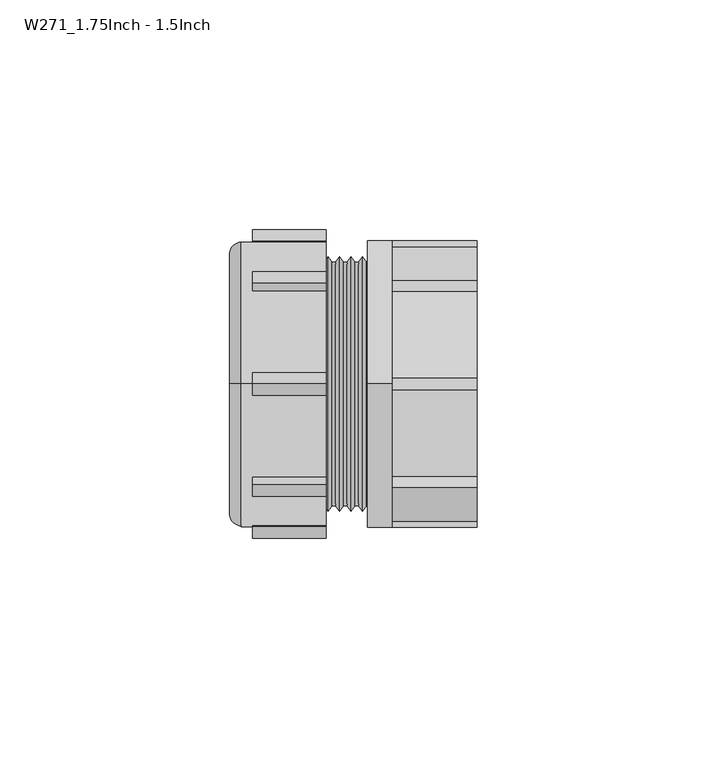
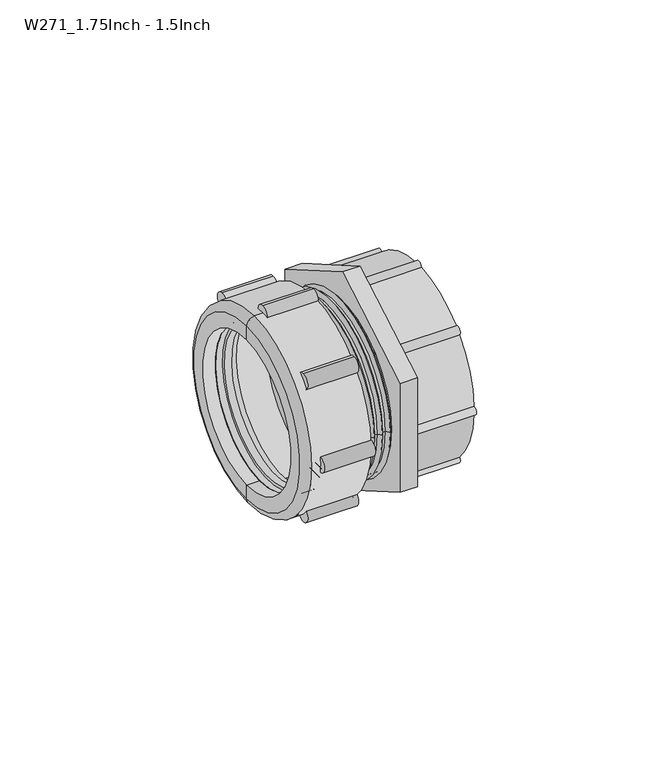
"""IFC4 building model written with IfcOpenShell, lengths in millimetres: pipe fitting geometry, Durapipe_PipeFitting_VulcatheneMechanical_1.75FItoPipeCoupler_W271 : W271_1.75Inch - 1.5Inch."""

from ifc_helpers import new_model, si_unit, point, frame, frame_2d, origin, place, context, project, spatial, polyline, circle_curve, ellipse_curve, trimmed, segment, composite_curve, outline, extrude, source, transform, mapped, element, save
from ifc_brep_helpers import plane_surface, cylinder_surface, revolved_surface, advanced_brep


def w271_1_75inch_1_5inch_8b04c7d0(model_context):
    return source(origin(), model_context, "Body", "SolidModel", [
        advanced_brep(
        [(-22.7, -18.5969083, -18.5969083), (-22.7, 18.5969083, 18.5969083), (-22.7, 17.1119841, 17.1119841), (-22.7, -17.1119841, -17.1119841), (-17.7, -18.3140656, -18.3140656), (-17.7, 18.3140656, 18.3140656), (-16.2, -18.1019336, -18.1019336), (-16.2, 18.1019336, 18.1019336), (-17.7, 18.1019336, 18.1019336), (-17.7, -18.1019336, -18.1019336), (-16.2, -17.1119841, -17.1119841), (-16.2, 17.1119841, 17.1119841), (-18.2, -17.1119841, -17.1119841), (-18.2, 17.1119841, 17.1119841), (-18.2, -16.5462987, -16.5462987), (-18.2, 16.5462987, 16.5462987), (-20.5, -17.1119841, -17.1119841), (-20.5, 17.1119841, 17.1119841), (-20.5, 16.5462987, 16.5462987), (-20.5, -16.5462987, -16.5462987)],
        [
            (0, 1, circle_curve(frame((-22.7, 0.0, 0.0), z_axis=(-1.0, 0.0, 0.0), x_axis=(0.0, 0.7071067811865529, 0.7071067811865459)), 26.3)),
            (1, 2),
            (2, 3, circle_curve(frame((-22.7, 0.0, 0.0), z_axis=(1.0, 0.0, 0.0), x_axis=(0.0, 0.7071067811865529, 0.7071067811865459)), 24.2)),
            (3, 0),
            (1, 0, circle_curve(frame((-22.7, 0.0, 0.0), z_axis=(-1.0, 0.0, 0.0), x_axis=(0.0, 0.7071067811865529, 0.7071067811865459)), 26.3)),
            (3, 2, circle_curve(frame((-22.7, 0.0, 0.0), z_axis=(1.0, 0.0, 0.0), x_axis=(0.0, 0.7071067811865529, 0.7071067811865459)), 24.2)),
            (4, 5, circle_curve(frame((-17.7, 0.0, 0.0), z_axis=(-1.0, 0.0, 0.0), x_axis=(0.0, 0.7071067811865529, 0.7071067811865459)), 25.9)),
            (5, 1),
            (0, 4),
            (5, 4, circle_curve(frame((-17.7, 0.0, 0.0), z_axis=(-1.0, 0.0, 0.0), x_axis=(0.0, 0.7071067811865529, 0.7071067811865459)), 25.9)),
            (6, 7, circle_curve(frame((-16.2, 0.0, 0.0), z_axis=(-1.0, 0.0, 0.0), x_axis=(0.0, 0.7071067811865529, 0.7071067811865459)), 25.6)),
            (7, 8),
            (8, 9, circle_curve(frame((-17.7, 0.0, 0.0), z_axis=(1.0, 0.0, 0.0), x_axis=(0.0, 0.7071067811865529, 0.7071067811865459)), 25.6)),
            (9, 6),
            (7, 6, circle_curve(frame((-16.2, 0.0, 0.0), z_axis=(-1.0, 0.0, 0.0), x_axis=(0.0, 0.7071067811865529, 0.7071067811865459)), 25.6)),
            (9, 8, circle_curve(frame((-17.7, 0.0, 0.0), z_axis=(1.0, 0.0, 0.0), x_axis=(0.0, 0.7071067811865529, 0.7071067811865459)), 25.6)),
            (6, 10),
            (10, 11, circle_curve(frame((-16.2, 0.0, 0.0), z_axis=(-1.0, 0.0, 0.0), x_axis=(0.0, 0.7071067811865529, 0.7071067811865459)), 24.2)),
            (11, 7),
            (11, 10, circle_curve(frame((-16.2, 0.0, 0.0), z_axis=(-1.0, 0.0, 0.0), x_axis=(0.0, 0.7071067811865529, 0.7071067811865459)), 24.2)),
            (10, 12),
            (12, 13, circle_curve(frame((-18.2, 0.0, 0.0), z_axis=(-1.0, 0.0, 0.0), x_axis=(0.0, 0.7071067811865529, 0.7071067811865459)), 24.2)),
            (13, 11),
            (13, 12, circle_curve(frame((-18.2, 0.0, 0.0), z_axis=(-1.0, 0.0, 0.0), x_axis=(0.0, 0.7071067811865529, 0.7071067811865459)), 24.2)),
            (12, 14),
            (14, 15, circle_curve(frame((-18.2, 0.0, 0.0), z_axis=(-1.0, 0.0, 0.0), x_axis=(0.0, 0.7071067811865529, 0.7071067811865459)), 23.4)),
            (15, 13),
            (15, 14, circle_curve(frame((-18.2, 0.0, 0.0), z_axis=(-1.0, 0.0, 0.0), x_axis=(0.0, 0.7071067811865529, 0.7071067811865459)), 23.4)),
            (16, 17, circle_curve(frame((-20.5, 0.0, 0.0), z_axis=(-1.0, 0.0, 0.0), x_axis=(0.0, 0.7071067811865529, 0.7071067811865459)), 24.2)),
            (17, 18),
            (18, 19, circle_curve(frame((-20.5, 0.0, 0.0), z_axis=(1.0, 0.0, 0.0), x_axis=(0.0, 0.7071067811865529, 0.7071067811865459)), 23.4)),
            (19, 16),
            (17, 16, circle_curve(frame((-20.5, 0.0, 0.0), z_axis=(-1.0, 0.0, 0.0), x_axis=(0.0, 0.7071067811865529, 0.7071067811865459)), 24.2)),
            (19, 18, circle_curve(frame((-20.5, 0.0, 0.0), z_axis=(1.0, 0.0, 0.0), x_axis=(0.0, 0.7071067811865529, 0.7071067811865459)), 23.4)),
            (2, 17),
            (16, 3),
            (14, 19),
            (18, 15),
            (4, 9),
            (8, 5),
        ],
        [
            plane_surface(frame((-22.7, 0.0, 0.0), z_axis=(-1.0, 0.0, 0.0), x_axis=(0.0, 0.707106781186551, 0.707106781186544))),
            revolved_surface(polyline([(-22.7, 18.5969083, 18.5969083), (-17.7, 18.3140656, 18.3140656)]), (-27.7, 0.0, 0.0), (1.0000000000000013, 0.0, 0.0)),
            cylinder_surface(frame((-14.1293443, 0.0, 0.0), z_axis=(1.0000000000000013, 0.0, 0.0), x_axis=(0.0, 0.7071067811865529, 0.7071067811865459)), 25.6),
            plane_surface(frame((-16.2, 0.0, 0.0), z_axis=(1.0, 0.0, 0.0), x_axis=(0.0, 0.707106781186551, 0.707106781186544))),
            revolved_surface(polyline([(-16.20000000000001, 17.11198410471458, 17.11198410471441), (-18.200000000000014, 17.11198410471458, 17.11198410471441)]), (-12.707009, 0.0, 0.0), (1.0000000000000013, 0.0, 0.0)),
            plane_surface(frame((-18.2, 0.0, 0.0), z_axis=(1.0, 0.0, 0.0), x_axis=(0.0, 0.707106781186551, 0.707106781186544))),
            plane_surface(frame((-20.5, 0.0, 0.0), z_axis=(-1.0, 0.0, 0.0), x_axis=(0.0, 0.707106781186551, 0.707106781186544))),
            revolved_surface(polyline([(-20.49999999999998, 17.11198410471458, 17.11198410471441), (-22.699999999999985, 17.11198410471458, 17.11198410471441)]), (-27.7, 0.0, 0.0), (1.0000000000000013, 0.0, 0.0)),
            revolved_surface(polyline([(-18.19999999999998, 16.546298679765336, 16.546298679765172), (-20.49999999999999, 16.546298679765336, 16.546298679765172)]), (-24.2661924, 0.0, 0.0), (1.0000000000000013, 0.0, 0.0)),
            plane_surface(frame((-17.7, 0.0, 0.0), z_axis=(1.0, 0.0, 0.0), x_axis=(0.0, 0.707106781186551, 0.707106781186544))),
        ],
        [
            (0, [[1, 2, 3, 4]]),
            (0, [[-2, 5, -4, 6]]),
            (1, [[7, 8, -1, 9]]),
            (1, [[10, -9, -5, -8]]),
            (2, [[11, 12, 13, 14]]),
            (2, [[-12, 15, -14, 16]]),
            (3, [[-11, 17, 18, 19]]),
            (3, [[-15, -19, 20, -17]]),
            (4, [[21, 22, 23, -18]]),
            (4, [[-21, -20, -23, 24]]),
            (5, [[-22, 25, 26, 27]]),
            (5, [[-24, -27, 28, -25]]),
            (6, [[29, 30, 31, 32]]),
            (6, [[33, -32, 34, -30]]),
            (7, [[-3, 35, -29, 36]]),
            (7, [[-6, -36, -33, -35]]),
            (8, [[37, -31, 38, -26]]),
            (8, [[-37, -28, -38, -34]]),
            (9, [[-7, 39, -13, 40]]),
            (9, [[-10, -40, -16, -39]]),
        ],
    ),
        advanced_brep(
        [(-6.0, 0.0, -31.0), (-6.0, 0.0, 31.0), (-24.4, 0.0, 31.0), (-24.4, 0.0, -31.0), (-6.0, 0.0, -26.0), (-6.0, 0.0, 26.0), (-26.9, 0.0, -28.5), (-26.9, 0.0, 28.5), (-26.9, 0.0, 24.0), (-26.9, 0.0, -24.0), (-22.7, 0.0, -26.0), (-22.7, 0.0, 26.0), (-22.7, 0.0, -24.0), (-22.7, 0.0, 24.0)],
        [
            (0, 1, circle_curve(frame((-6.0, 0.0, 0.0), z_axis=(-1.0, 0.0, 0.0), x_axis=(0.0, 0.0, 1.0000000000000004)), 31.0)),
            (1, 2),
            (2, 3, circle_curve(frame((-24.4, 0.0, 0.0), z_axis=(1.0, 0.0, 0.0), x_axis=(0.0, 0.0, 1.0000000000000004)), 31.0)),
            (3, 0),
            (1, 0, circle_curve(frame((-6.0, 0.0, 0.0), z_axis=(-1.0, 0.0, 0.0), x_axis=(0.0, 0.0, 1.0000000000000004)), 31.0)),
            (3, 2, circle_curve(frame((-24.4, 0.0, 0.0), z_axis=(1.0, 0.0, 0.0), x_axis=(0.0, 0.0, 1.0000000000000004)), 31.0)),
            (4, 5, circle_curve(frame((-6.0, 0.0, 0.0), z_axis=(-1.0, 0.0, 0.0), x_axis=(0.0, 0.0, 1.0000000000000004)), 26.0)),
            (5, 1),
            (0, 4),
            (5, 4, circle_curve(frame((-6.0, 0.0, 0.0), z_axis=(-1.0, 0.0, 0.0), x_axis=(0.0, 0.0, 1.0000000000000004)), 26.0)),
            (6, 7, circle_curve(frame((-26.9, 0.0, 0.0), z_axis=(-1.0, 0.0, 0.0), x_axis=(0.0, 0.0, 1.0000000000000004)), 28.5)),
            (7, 8),
            (8, 9, circle_curve(frame((-26.9, 0.0, 0.0), z_axis=(1.0, 0.0, 0.0), x_axis=(0.0, 0.0, 1.0000000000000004)), 24.0)),
            (9, 6),
            (7, 6, circle_curve(frame((-26.9, 0.0, 0.0), z_axis=(-1.0, 0.0, 0.0), x_axis=(0.0, 0.0, 1.0000000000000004)), 28.5)),
            (9, 8, circle_curve(frame((-26.9, 0.0, 0.0), z_axis=(1.0, 0.0, 0.0), x_axis=(0.0, 0.0, 1.0000000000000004)), 24.0)),
            (2, 7, circle_curve(frame((-24.4, 0.0, 28.5), z_axis=(0.0, -1.0000000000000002, 0.0), x_axis=(-1.0000000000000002, 0.0, 0.0)), 2.5)),
            (6, 3, circle_curve(frame((-24.4, 0.0, -28.5), z_axis=(0.0, -1.0000000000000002, 0.0), x_axis=(-1.0000000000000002, 0.0, 0.0)), 2.5)),
            (10, 11, circle_curve(frame((-22.7, 0.0, 0.0), z_axis=(-1.0, 0.0, 0.0), x_axis=(0.0, 0.0, 1.0000000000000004)), 26.0)),
            (11, 5),
            (4, 10),
            (11, 10, circle_curve(frame((-22.7, 0.0, 0.0), z_axis=(-1.0, 0.0, 0.0), x_axis=(0.0, 0.0, 1.0000000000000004)), 26.0)),
            (12, 13, circle_curve(frame((-22.7, 0.0, 0.0), z_axis=(-1.0, 0.0, 0.0), x_axis=(0.0, 0.0, 1.0000000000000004)), 24.0)),
            (13, 11),
            (10, 12),
            (13, 12, circle_curve(frame((-22.7, 0.0, 0.0), z_axis=(-1.0, 0.0, 0.0), x_axis=(0.0, 0.0, 1.0000000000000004)), 24.0)),
            (8, 13),
            (12, 9),
        ],
        [
            cylinder_surface(frame((-1587.7018184, 0.0, 0.0), z_axis=(1.0000000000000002, 0.0, 0.0), x_axis=(0.0, 0.0, 1.0000000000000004)), 31.0),
            plane_surface(frame((-6.0, 0.0, 0.0), z_axis=(1.0, 0.0, 0.0), x_axis=(0.0, 0.0, 1.0))),
            plane_surface(frame((-26.9, 0.0, 0.0), z_axis=(-1.0, 0.0, 0.0), x_axis=(0.0, 0.0, 1.0))),
            revolved_surface(trimmed(ellipse_curve(frame((-24.4, 0.0, 28.5), z_axis=(0.0, 1.0000000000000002, 0.0), x_axis=(-1.0000000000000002, 0.0, 0.0)), 2.5, 2.5), [point((-26.9, 0.0, 28.5))], [point((-24.4, 0.0, 31.0))], True, "CARTESIAN"), (-1587.7018184, 0.0, 0.0), (1.0000000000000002, 0.0, 0.0)),
            revolved_surface(polyline([(-5.9999999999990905, 0.0, 26.00000000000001), (-22.699999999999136, 0.0, 26.00000000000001)]), (-1587.7018184, 0.0, 0.0), (1.0000000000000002, 0.0, 0.0)),
            plane_surface(frame((-22.7, 0.0, 0.0), z_axis=(1.0, 0.0, 0.0), x_axis=(0.0, 0.0, 1.0))),
            revolved_surface(polyline([(-22.699999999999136, 0.0, 24.00000000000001), (-26.89999999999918, 0.0, 24.00000000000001)]), (-1587.7018184, 0.0, 0.0), (1.0000000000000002, 0.0, 0.0)),
        ],
        [
            (0, [[1, 2, 3, 4]]),
            (0, [[5, -4, 6, -2]]),
            (1, [[7, 8, -1, 9]]),
            (1, [[10, -9, -5, -8]]),
            (2, [[11, 12, 13, 14]]),
            (2, [[15, -14, 16, -12]]),
            (3, [[-3, 17, -11, 18]]),
            (3, [[-6, -18, -15, -17]]),
            (4, [[19, 20, -7, 21]]),
            (4, [[22, -21, -10, -20]]),
            (5, [[23, 24, -19, 25]]),
            (5, [[26, -25, -22, -24]]),
            (6, [[-13, 27, -23, 28]]),
            (6, [[-16, -28, -26, -27]]),
        ],
    ),
        extrude(outline(composite_curve([segment(trimmed(circle_curve(frame_2d((31.0, 0.0)), 2.5), [point((31.0, -2.5))], [point((31.0, 2.5))], False, "CARTESIAN"), True, "CONTINUOUS"), segment(trimmed(circle_curve(frame_2d((31.0, 0.0)), 2.5), [point((31.0, 2.5))], [point((31.0, -2.5))], False, "CARTESIAN"), True, "CONTINUOUS")], self_intersect=False)), frame((-21.9, 0.0, 0.0), z_axis=(1.0, 0.0, 0.0), x_axis=(0.0, 1.0, 0.0)), (0.0, 0.0, 1.0), 15.9),
        extrude(outline(composite_curve([segment(trimmed(circle_curve(frame_2d((21.9203102, 21.9203102)), 2.5), [point((21.9203102, 19.4203102))], [point((21.9203102, 24.4203102))], False, "CARTESIAN"), True, "CONTINUOUS"), segment(trimmed(circle_curve(frame_2d((21.9203102, 21.9203102)), 2.5), [point((21.9203102, 24.4203102))], [point((21.9203102, 19.4203102))], False, "CARTESIAN"), True, "CONTINUOUS")], self_intersect=False)), frame((-21.9, 0.0, 0.0), z_axis=(1.0, 0.0, 0.0), x_axis=(0.0, 1.0, 0.0)), (0.0, 0.0, 1.0), 15.9),
        extrude(outline(composite_curve([segment(trimmed(circle_curve(frame_2d((0.0, 31.0)), 2.5), [point((0.0, 28.5))], [point((0.0, 33.5))], False, "CARTESIAN"), True, "CONTINUOUS"), segment(trimmed(circle_curve(frame_2d((0.0, 31.0)), 2.5), [point((0.0, 33.5))], [point((0.0, 28.5))], False, "CARTESIAN"), True, "CONTINUOUS")], self_intersect=False)), frame((-21.9, 0.0, 0.0), z_axis=(1.0, 0.0, 0.0), x_axis=(0.0, 1.0, 0.0)), (0.0, 0.0, 1.0), 15.9),
        extrude(outline(composite_curve([segment(trimmed(circle_curve(frame_2d((-21.9203102, 21.9203102)), 2.5), [point((-21.9203102, 19.4203102))], [point((-21.9203102, 24.4203102))], False, "CARTESIAN"), True, "CONTINUOUS"), segment(trimmed(circle_curve(frame_2d((-21.9203102, 21.9203102)), 2.5), [point((-21.9203102, 24.4203102))], [point((-21.9203102, 19.4203102))], False, "CARTESIAN"), True, "CONTINUOUS")], self_intersect=False)), frame((-21.9, 0.0, 0.0), z_axis=(1.0, 0.0, 0.0), x_axis=(0.0, 1.0, 0.0)), (0.0, 0.0, 1.0), 15.9),
        extrude(outline(composite_curve([segment(trimmed(circle_curve(frame_2d((-31.0, 0.0)), 2.5), [point((-31.0, -2.5))], [point((-31.0, 2.5))], False, "CARTESIAN"), True, "CONTINUOUS"), segment(trimmed(circle_curve(frame_2d((-31.0, 0.0)), 2.5), [point((-31.0, 2.5))], [point((-31.0, -2.5))], False, "CARTESIAN"), True, "CONTINUOUS")], self_intersect=False)), frame((-21.9, 0.0, 0.0), z_axis=(1.0, 0.0, 0.0), x_axis=(0.0, 1.0, 0.0)), (0.0, 0.0, 1.0), 15.9),
        extrude(outline(composite_curve([segment(trimmed(circle_curve(frame_2d((-21.9203102, -21.9203102)), 2.5), [point((-21.9203102, -24.4203102))], [point((-21.9203102, -19.4203102))], False, "CARTESIAN"), True, "CONTINUOUS"), segment(trimmed(circle_curve(frame_2d((-21.9203102, -21.9203102)), 2.5), [point((-21.9203102, -19.4203102))], [point((-21.9203102, -24.4203102))], False, "CARTESIAN"), True, "CONTINUOUS")], self_intersect=False)), frame((-21.9, 0.0, 0.0), z_axis=(1.0, 0.0, 0.0), x_axis=(0.0, 1.0, 0.0)), (0.0, 0.0, 1.0), 15.9),
        extrude(outline(composite_curve([segment(trimmed(circle_curve(frame_2d((0.0, -31.0)), 2.5), [point((0.0, -33.5))], [point((0.0, -28.5))], False, "CARTESIAN"), True, "CONTINUOUS"), segment(trimmed(circle_curve(frame_2d((0.0, -31.0)), 2.5), [point((0.0, -28.5))], [point((0.0, -33.5))], False, "CARTESIAN"), True, "CONTINUOUS")], self_intersect=False)), frame((-21.9, 0.0, 0.0), z_axis=(1.0, 0.0, 0.0), x_axis=(0.0, 1.0, 0.0)), (0.0, 0.0, 1.0), 15.9),
        extrude(outline(composite_curve([segment(trimmed(circle_curve(frame_2d((21.9203102, -21.9203102)), 2.5), [point((21.9203102, -24.4203102))], [point((21.9203102, -19.4203102))], False, "CARTESIAN"), True, "CONTINUOUS"), segment(trimmed(circle_curve(frame_2d((21.9203102, -21.9203102)), 2.5), [point((21.9203102, -19.4203102))], [point((21.9203102, -24.4203102))], False, "CARTESIAN"), True, "CONTINUOUS")], self_intersect=False)), frame((-21.9, 0.0, 0.0), z_axis=(1.0, 0.0, 0.0), x_axis=(0.0, 1.0, 0.0)), (0.0, 0.0, 1.0), 15.9),
        advanced_brep(
        [(3.05, 31.15, 17.9844609), (3.05, 31.15, -17.9844609), (3.05, 0.0, -35.9689218), (3.05, -31.15, -17.9844609), (3.05, -31.15, 17.9844609), (3.05, 0.0, 35.9689218), (3.05, -26.5, 0.0), (3.05, 26.5, 0.0), (8.45, 31.15, 17.9844609), (8.45, 0.0, 35.9689218), (8.45, -31.15, 17.9844609), (8.45, -31.15, 0.0), (8.45, -29.8216918, 1.2996918), (8.45, -22.0061413, 20.1680996), (8.45, -20.1680996, 22.0061413), (8.45, -1.2996918, 29.8216918), (8.45, 1.2996917, 29.8216918), (8.45, 20.1680996, 22.0061413), (8.45, 22.0061413, 20.1680996), (8.45, 29.8216918, 1.2996918), (8.45, 31.15, 0.0), (8.45, -31.15, -17.9844609), (8.45, 0.0, -35.9689218), (8.45, 31.15, -17.9844609), (8.45, 29.8216918, -1.2996918), (8.45, 22.0061413, -20.1680996), (8.45, 20.1680996, -22.0061413), (8.45, 1.2996917, -29.8216918), (8.45, -1.2996918, -29.8216918), (8.45, -20.1680996, -22.0061413), (8.45, -22.0061413, -20.1680996), (8.45, -29.8216918, -1.2996918), (8.45, 26.9, 0.0), (8.45, -26.9, 0.0), (8.45, -21.75, 0.0), (8.45, 21.75, 0.0), (6.1, 21.75, 0.0), (3.05, 21.75, 0.0), (3.05, -21.75, 0.0), (6.1, -21.75, 0.0), (26.9, -20.1680996, 22.0061413), (26.9, -22.0061413, 20.1680996), (26.9, -29.8216918, 1.2996918), (26.9, -29.8216918, -1.2996918), (26.9, -22.0061413, -20.1680996), (26.9, -20.1680996, -22.0061413), (26.9, -1.2996918, -29.8216918), (26.9, 1.2996917, -29.8216918), (26.9, 20.1680996, -22.0061413), (26.9, 22.0061413, -20.1680996), (26.9, 29.8216918, -1.2996918), (26.9, 29.8216918, 1.2996918), (26.9, 22.0061413, 20.1680996), (26.9, 20.1680996, 22.0061413), (26.9, 1.2996917, 29.8216918), (26.9, -1.2996918, 29.8216918), (26.9, -26.9, 0.0), (26.9, 26.9, 0.0), (-6.0, -21.75, 0.0), (-6.0, 21.75, 0.0), (-6.0, 26.9941176, 0.0), (-6.0, -26.9941176, 0.0), (2.85, -26.5, 0.0), (2.85, 26.5, 0.0), (2.0, -27.7, 0.0), (2.0, 27.7, 0.0), (1.15, -26.5, 0.0), (1.15, 26.5, 0.0), (0.35, -26.5, 0.0), (0.35, 26.5, 0.0), (-0.5, -27.7, 0.0), (-0.5, 27.7, 0.0), (-1.35, -26.5, 0.0), (-1.35, 26.5, 0.0), (-2.15, -26.5, 0.0), (-2.15, 26.5, 0.0), (-3.0, -27.7, 0.0), (-3.0, 27.7, 0.0), (-3.85, -26.5, 0.0), (-3.85, 26.5, 0.0), (-4.65, -26.5, 0.0), (-4.65, 26.5, 0.0), (-5.5, -27.7, 0.0), (-5.5, 27.7, 0.0)],
        [
            (0, 1),
            (1, 2),
            (2, 3),
            (3, 4),
            (4, 5),
            (5, 0),
            (6, 7, circle_curve(frame((3.05, 0.0, 0.0), z_axis=(1.0, 0.0, 0.0), x_axis=(0.0, 1.0, 0.0)), 26.5)),
            (7, 6, circle_curve(frame((3.05, 0.0, 0.0), z_axis=(1.0, 0.0, 0.0), x_axis=(0.0, 1.0, 0.0)), 26.5)),
            (8, 9),
            (9, 10),
            (10, 11),
            (11, 12, circle_curve(frame((8.45, -29.85, 0.0), z_axis=(-1.0, 0.0, 0.0), x_axis=(0.0, 1.0, 0.0)), 1.3)),
            (12, 13, circle_curve(frame((8.45, 0.0, 0.0), z_axis=(-1.0, 0.0, 0.0), x_axis=(0.0, 1.0, 0.0)), 29.85)),
            (13, 14, circle_curve(frame((8.45, -21.1071374, 21.1071374), z_axis=(-1.0, 0.0, 0.0), x_axis=(0.0, 1.0, 0.0)), 1.3)),
            (14, 15, circle_curve(frame((8.45, 0.0, 0.0), z_axis=(-1.0, 0.0, 0.0), x_axis=(0.0, 1.0, 0.0)), 29.85)),
            (15, 16, circle_curve(frame((8.45, 0.0, 29.85), z_axis=(-1.0, 0.0, 0.0), x_axis=(0.0, 1.0, 0.0)), 1.3)),
            (16, 17, circle_curve(frame((8.45, 0.0, 0.0), z_axis=(-1.0, 0.0, 0.0), x_axis=(0.0, 1.0, 0.0)), 29.85)),
            (17, 18, circle_curve(frame((8.45, 21.1071374, 21.1071374), z_axis=(-1.0, 0.0, 0.0), x_axis=(0.0, 1.0, 0.0)), 1.3)),
            (18, 19, circle_curve(frame((8.45, 0.0, 0.0), z_axis=(-1.0, 0.0, 0.0), x_axis=(0.0, 1.0, 0.0)), 29.85)),
            (19, 20, circle_curve(frame((8.45, 29.85, 0.0), z_axis=(-1.0, 0.0, 0.0), x_axis=(0.0, 1.0, 0.0)), 1.3)),
            (20, 8),
            (21, 22),
            (22, 23),
            (23, 20),
            (20, 24, circle_curve(frame((8.45, 29.85, 0.0), z_axis=(-1.0, 0.0, 0.0), x_axis=(0.0, 1.0, 0.0)), 1.3)),
            (24, 25, circle_curve(frame((8.45, 0.0, 0.0), z_axis=(-1.0, 0.0, 0.0), x_axis=(0.0, 1.0, 0.0)), 29.85)),
            (25, 26, circle_curve(frame((8.45, 21.1071374, -21.1071374), z_axis=(-1.0, 0.0, 0.0), x_axis=(0.0, 1.0, 0.0)), 1.3)),
            (26, 27, circle_curve(frame((8.45, 0.0, 0.0), z_axis=(-1.0, 0.0, 0.0), x_axis=(0.0, 1.0, 0.0)), 29.85)),
            (27, 28, circle_curve(frame((8.45, 0.0, -29.85), z_axis=(-1.0, 0.0, 0.0), x_axis=(0.0, 1.0, 0.0)), 1.3)),
            (28, 29, circle_curve(frame((8.45, 0.0, 0.0), z_axis=(-1.0, 0.0, 0.0), x_axis=(0.0, 1.0, 0.0)), 29.85)),
            (29, 30, circle_curve(frame((8.45, -21.1071374, -21.1071374), z_axis=(-1.0, 0.0, 0.0), x_axis=(0.0, 1.0, 0.0)), 1.3)),
            (30, 31, circle_curve(frame((8.45, 0.0, 0.0), z_axis=(-1.0, 0.0, 0.0), x_axis=(0.0, 1.0, 0.0)), 29.85)),
            (31, 11, circle_curve(frame((8.45, -29.85, 0.0), z_axis=(-1.0, 0.0, 0.0), x_axis=(0.0, 1.0, 0.0)), 1.3)),
            (11, 21),
            (32, 33, circle_curve(frame((8.45, 0.0, 0.0), z_axis=(1.0, 0.0, 0.0), x_axis=(0.0, 1.0, 0.0)), 26.9)),
            (33, 32, circle_curve(frame((8.45, 0.0, 0.0), z_axis=(1.0, 0.0, 0.0), x_axis=(0.0, 1.0, 0.0)), 26.9)),
            (34, 35, circle_curve(frame((8.45, 0.0, 0.0), z_axis=(-1.0, 0.0, 0.0), x_axis=(0.0, 1.0, 0.0)), 21.75)),
            (35, 34, circle_curve(frame((8.45, 0.0, 0.0), z_axis=(-1.0, 0.0, 0.0), x_axis=(0.0, 1.0, 0.0)), 21.75)),
            (0, 8),
            (23, 1),
            (22, 2),
            (21, 3),
            (10, 4),
            (9, 5),
            (35, 36),
            (36, 37),
            (37, 38, circle_curve(frame((3.05, 0.0, 0.0), z_axis=(-1.0, 0.0, 0.0), x_axis=(0.0, 1.0, 0.0)), 21.75)),
            (38, 39),
            (39, 34),
            (38, 37, circle_curve(frame((3.05, 0.0, 0.0), z_axis=(-1.0, 0.0, 0.0), x_axis=(0.0, 1.0, 0.0)), 21.75)),
            (40, 41, circle_curve(frame((26.9, -21.1071374, 21.1071374), z_axis=(1.0, 0.0, 0.0), x_axis=(0.0, 1.0, 0.0)), 1.3)),
            (41, 42, circle_curve(frame((26.9, 0.0, 0.0), z_axis=(1.0, 0.0, 0.0), x_axis=(0.0, 1.0, 0.0)), 29.85)),
            (42, 43, circle_curve(frame((26.9, -29.85, 0.0), z_axis=(1.0, 0.0, 0.0), x_axis=(0.0, 1.0, 0.0)), 1.3)),
            (43, 44, circle_curve(frame((26.9, 0.0, 0.0), z_axis=(1.0, 0.0, 0.0), x_axis=(0.0, 1.0, 0.0)), 29.85)),
            (44, 45, circle_curve(frame((26.9, -21.1071374, -21.1071374), z_axis=(1.0, 0.0, 0.0), x_axis=(0.0, 1.0, 0.0)), 1.3)),
            (45, 46, circle_curve(frame((26.9, 0.0, 0.0), z_axis=(1.0, 0.0, 0.0), x_axis=(0.0, 1.0, 0.0)), 29.85)),
            (46, 47, circle_curve(frame((26.9, 0.0, -29.85), z_axis=(1.0, 0.0, 0.0), x_axis=(0.0, 1.0, 0.0)), 1.3)),
            (47, 48, circle_curve(frame((26.9, 0.0, 0.0), z_axis=(1.0, 0.0, 0.0), x_axis=(0.0, 1.0, 0.0)), 29.85)),
            (48, 49, circle_curve(frame((26.9, 21.1071374, -21.1071374), z_axis=(1.0, 0.0, 0.0), x_axis=(0.0, 1.0, 0.0)), 1.3)),
            (49, 50, circle_curve(frame((26.9, 0.0, 0.0), z_axis=(1.0, 0.0, 0.0), x_axis=(0.0, 1.0, 0.0)), 29.85)),
            (50, 51, circle_curve(frame((26.9, 29.85, 0.0), z_axis=(1.0, 0.0, 0.0), x_axis=(0.0, 1.0, 0.0)), 1.3)),
            (51, 52, circle_curve(frame((26.9, 0.0, 0.0), z_axis=(1.0, 0.0, 0.0), x_axis=(0.0, 1.0, 0.0)), 29.85)),
            (52, 53, circle_curve(frame((26.9, 21.1071374, 21.1071374), z_axis=(1.0, 0.0, 0.0), x_axis=(0.0, 1.0, 0.0)), 1.3)),
            (53, 54, circle_curve(frame((26.9, 0.0, 0.0), z_axis=(1.0, 0.0, 0.0), x_axis=(0.0, 1.0, 0.0)), 29.85)),
            (54, 55, circle_curve(frame((26.9, 0.0, 29.85), z_axis=(1.0, 0.0, 0.0), x_axis=(0.0, 1.0, 0.0)), 1.3)),
            (55, 40, circle_curve(frame((26.9, 0.0, 0.0), z_axis=(1.0, 0.0, 0.0), x_axis=(0.0, 1.0, 0.0)), 29.85)),
            (56, 57, circle_curve(frame((26.9, 0.0, 0.0), z_axis=(-1.0, 0.0, 0.0), x_axis=(0.0, 1.0, 0.0)), 26.9)),
            (57, 56, circle_curve(frame((26.9, 0.0, 0.0), z_axis=(-1.0, 0.0, 0.0), x_axis=(0.0, 1.0, 0.0)), 26.9)),
            (40, 14),
            (13, 41),
            (12, 42),
            (31, 43),
            (30, 44),
            (29, 45),
            (28, 46),
            (27, 47),
            (26, 48),
            (25, 49),
            (24, 50),
            (19, 51),
            (18, 52),
            (17, 53),
            (16, 54),
            (15, 55),
            (56, 33),
            (32, 57),
            (58, 59, circle_curve(frame((-6.0, 0.0, 0.0), z_axis=(1.0, 0.0, 0.0), x_axis=(0.0, 1.0, 0.0)), 21.75)),
            (59, 60),
            (60, 61, circle_curve(frame((-6.0, 0.0, 0.0), z_axis=(-1.0, 0.0, 0.0), x_axis=(0.0, 1.0, 0.0)), 26.9941176)),
            (61, 58),
            (59, 58, circle_curve(frame((-6.0, 0.0, 0.0), z_axis=(1.0, 0.0, 0.0), x_axis=(0.0, 1.0, 0.0)), 21.75)),
            (61, 60, circle_curve(frame((-6.0, 0.0, 0.0), z_axis=(-1.0, 0.0, 0.0), x_axis=(0.0, 1.0, 0.0)), 26.9941176)),
            (62, 63, circle_curve(frame((2.85, 0.0, 0.0), z_axis=(1.0, 0.0, 0.0), x_axis=(0.0, 1.0, 0.0)), 26.5)),
            (63, 7),
            (6, 62),
            (63, 62, circle_curve(frame((2.85, 0.0, 0.0), z_axis=(1.0, 0.0, 0.0), x_axis=(0.0, 1.0, 0.0)), 26.5)),
            (62, 64),
            (64, 65, circle_curve(frame((2.0, 0.0, 0.0), z_axis=(1.0, 0.0, 0.0), x_axis=(0.0, 1.0, 0.0)), 27.7)),
            (65, 63),
            (65, 64, circle_curve(frame((2.0, 0.0, 0.0), z_axis=(1.0, 0.0, 0.0), x_axis=(0.0, 1.0, 0.0)), 27.7)),
            (64, 66),
            (66, 67, circle_curve(frame((1.15, 0.0, 0.0), z_axis=(1.0, 0.0, 0.0), x_axis=(0.0, 1.0, 0.0)), 26.5)),
            (67, 65),
            (67, 66, circle_curve(frame((1.15, 0.0, 0.0), z_axis=(1.0, 0.0, 0.0), x_axis=(0.0, 1.0, 0.0)), 26.5)),
            (66, 68),
            (68, 69, circle_curve(frame((0.35, 0.0, 0.0), z_axis=(1.0, 0.0, 0.0), x_axis=(0.0, 1.0, 0.0)), 26.5)),
            (69, 67),
            (69, 68, circle_curve(frame((0.35, 0.0, 0.0), z_axis=(1.0, 0.0, 0.0), x_axis=(0.0, 1.0, 0.0)), 26.5)),
            (68, 70),
            (70, 71, circle_curve(frame((-0.5, 0.0, 0.0), z_axis=(1.0, 0.0, 0.0), x_axis=(0.0, 1.0, 0.0)), 27.7)),
            (71, 69),
            (71, 70, circle_curve(frame((-0.5, 0.0, 0.0), z_axis=(1.0, 0.0, 0.0), x_axis=(0.0, 1.0, 0.0)), 27.7)),
            (70, 72),
            (72, 73, circle_curve(frame((-1.35, 0.0, 0.0), z_axis=(1.0, 0.0, 0.0), x_axis=(0.0, 1.0, 0.0)), 26.5)),
            (73, 71),
            (73, 72, circle_curve(frame((-1.35, 0.0, 0.0), z_axis=(1.0, 0.0, 0.0), x_axis=(0.0, 1.0, 0.0)), 26.5)),
            (72, 74),
            (74, 75, circle_curve(frame((-2.15, 0.0, 0.0), z_axis=(1.0, 0.0, 0.0), x_axis=(0.0, 1.0, 0.0)), 26.5)),
            (75, 73),
            (75, 74, circle_curve(frame((-2.15, 0.0, 0.0), z_axis=(1.0, 0.0, 0.0), x_axis=(0.0, 1.0, 0.0)), 26.5)),
            (74, 76),
            (76, 77, circle_curve(frame((-3.0, 0.0, 0.0), z_axis=(1.0, 0.0, 0.0), x_axis=(0.0, 1.0, 0.0)), 27.7)),
            (77, 75),
            (77, 76, circle_curve(frame((-3.0, 0.0, 0.0), z_axis=(1.0, 0.0, 0.0), x_axis=(0.0, 1.0, 0.0)), 27.7)),
            (76, 78),
            (78, 79, circle_curve(frame((-3.85, 0.0, 0.0), z_axis=(1.0, 0.0, 0.0), x_axis=(0.0, 1.0, 0.0)), 26.5)),
            (79, 77),
            (79, 78, circle_curve(frame((-3.85, 0.0, 0.0), z_axis=(1.0, 0.0, 0.0), x_axis=(0.0, 1.0, 0.0)), 26.5)),
            (78, 80),
            (80, 81, circle_curve(frame((-4.65, 0.0, 0.0), z_axis=(1.0, 0.0, 0.0), x_axis=(0.0, 1.0, 0.0)), 26.5)),
            (81, 79),
            (81, 80, circle_curve(frame((-4.65, 0.0, 0.0), z_axis=(1.0, 0.0, 0.0), x_axis=(0.0, 1.0, 0.0)), 26.5)),
            (80, 82),
            (82, 83, circle_curve(frame((-5.5, 0.0, 0.0), z_axis=(1.0, 0.0, 0.0), x_axis=(0.0, 1.0, 0.0)), 27.7)),
            (83, 81),
            (83, 82, circle_curve(frame((-5.5, 0.0, 0.0), z_axis=(1.0, 0.0, 0.0), x_axis=(0.0, 1.0, 0.0)), 27.7)),
            (60, 83),
            (82, 61),
            (58, 38),
            (37, 59),
        ],
        [
            plane_surface(frame((3.05, 31.15, 17.9844609), z_axis=(-1.0, 0.0, 0.0), x_axis=(0.0, 0.0, -1.0))),
            plane_surface(frame((8.45, 31.15, 17.9844609), z_axis=(1.0, 0.0, 0.0), x_axis=(0.0, 0.0, 1.0))),
            plane_surface(frame((3.05, 31.15, 17.9844609), z_axis=(0.0, 1.0, 0.0), x_axis=(1.0, 0.0, 0.0))),
            plane_surface(frame((3.05, 31.15, -17.9844609), z_axis=(0.0, 0.5000000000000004, -0.8660254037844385), x_axis=(1.0, 0.0, 0.0))),
            plane_surface(frame((3.05, 0.0, -35.9689218), z_axis=(0.0, -0.49999999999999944, -0.866025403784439), x_axis=(1.0, 0.0, 0.0))),
            plane_surface(frame((3.05, -31.15, -17.9844609), z_axis=(0.0, -1.0, 0.0), x_axis=(1.0, 0.0, 0.0))),
            plane_surface(frame((3.05, -31.15, 17.9844609), z_axis=(0.0, -0.5000000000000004, 0.8660254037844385), x_axis=(1.0, 0.0, 0.0))),
            plane_surface(frame((3.05, 0.0, 35.9689218), z_axis=(0.0, 0.4999999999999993, 0.866025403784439), x_axis=(1.0, 0.0, 0.0))),
            revolved_surface(polyline([(8.45, 21.75, 0.0), (3.05, 21.75, 0.0)]), (0.0, 0.0, 0.0), (1.0, 0.0, 0.0)),
            plane_surface(frame((26.9, -19.8071374, 21.1071374), z_axis=(1.0, 0.0, 0.0), x_axis=(0.0, 0.0, 1.0))),
            cylinder_surface(frame((8.45, -21.1071374, 21.1071374), z_axis=(1.0, 0.0, 0.0), x_axis=(0.0, 1.0, 0.0)), 1.3),
            cylinder_surface(frame((8.45, 0.0, 0.0), z_axis=(1.0, 0.0, 0.0), x_axis=(0.0, 1.0, 0.0)), 29.85),
            cylinder_surface(frame((8.45, -29.85, 0.0), z_axis=(1.0, 0.0, 0.0), x_axis=(0.0, 1.0, 0.0)), 1.3),
            cylinder_surface(frame((8.45, -21.1071374, -21.1071374), z_axis=(1.0, 0.0, 0.0), x_axis=(0.0, 1.0, 0.0)), 1.3),
            cylinder_surface(frame((8.45, 0.0, -29.85), z_axis=(1.0, 0.0, 0.0), x_axis=(0.0, 1.0, 0.0)), 1.3),
            cylinder_surface(frame((8.45, 21.1071374, -21.1071374), z_axis=(1.0, 0.0, 0.0), x_axis=(0.0, 1.0, 0.0)), 1.3),
            cylinder_surface(frame((8.45, 29.85, 0.0), z_axis=(1.0, 0.0, 0.0), x_axis=(0.0, 1.0, 0.0)), 1.3),
            cylinder_surface(frame((8.45, 21.1071374, 21.1071374), z_axis=(1.0, 0.0, 0.0), x_axis=(0.0, 1.0, 0.0)), 1.3),
            cylinder_surface(frame((8.45, 0.0, 29.85), z_axis=(1.0, 0.0, 0.0), x_axis=(0.0, 1.0, 0.0)), 1.3),
            revolved_surface(polyline([(8.45, 26.9, 0.0), (26.9, 26.9, 0.0)]), (0.0, 0.0, 0.0), (-1.0, 0.0, 0.0)),
            plane_surface(frame((-6.0, 0.0, 0.0), z_axis=(-1.0, 0.0, 0.0), x_axis=(0.0, 1.0, 0.0))),
            cylinder_surface(frame((-12.5849993, 0.0, 0.0), z_axis=(-1.0, 0.0, 0.0), x_axis=(0.0, 1.0, 0.0)), 26.5),
            revolved_surface(polyline([(2.85, 26.5, 0.0), (2.0, 27.7, 0.0)]), (-12.5849993, 0.0, 0.0), (-1.0, 0.0, 0.0)),
            revolved_surface(polyline([(2.0, 27.7, 0.0), (1.15, 26.5, 0.0)]), (-12.5849993, 0.0, 0.0), (-1.0, 0.0, 0.0)),
            revolved_surface(polyline([(0.35, 26.5, 0.0), (-0.5, 27.7, 0.0)]), (-12.5849993, 0.0, 0.0), (-1.0, 0.0, 0.0)),
            revolved_surface(polyline([(-0.5, 27.7, 0.0), (-1.35, 26.5, 0.0)]), (-12.5849993, 0.0, 0.0), (-1.0, 0.0, 0.0)),
            revolved_surface(polyline([(-2.15, 26.5, 0.0), (-3.0, 27.7, 0.0)]), (-12.5849993, 0.0, 0.0), (-1.0, 0.0, 0.0)),
            revolved_surface(polyline([(-3.0, 27.7, 0.0), (-3.85, 26.5, 0.0)]), (-12.5849993, 0.0, 0.0), (-1.0, 0.0, 0.0)),
            revolved_surface(polyline([(-4.65, 26.5, 0.0), (-5.5, 27.7, 0.0)]), (-12.5849993, 0.0, 0.0), (-1.0, 0.0, 0.0)),
            revolved_surface(polyline([(-5.5, 27.7, 0.0), (-6.0, 26.9941176, 0.0)]), (-12.5849993, 0.0, 0.0), (-1.0, 0.0, 0.0)),
            revolved_surface(polyline([(-6.0, 21.75, 0.0), (3.0500000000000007, 21.75, 0.0)]), (-12.5849993, 0.0, 0.0), (-1.0, 0.0, 0.0)),
        ],
        [
            (0, [[1, 2, 3, 4, 5, 6], [7, 8]]),
            (1, [[9, 10, 11, 12, 13, 14, 15, 16, 17, 18, 19, 20, 21]]),
            (1, [[22, 23, 24, 25, 26, 27, 28, 29, 30, 31, 32, 33, 34]]),
            (1, [[35, 36], [37, 38]]),
            (2, [[-1, 39, -21, -24, 40]]),
            (3, [[-2, -40, -23, 41]]),
            (4, [[-3, -41, -22, 42]]),
            (5, [[-4, -42, -34, -11, 43]]),
            (6, [[-5, -43, -10, 44]]),
            (7, [[-6, -44, -9, -39]]),
            (8, [[-38, 45, 46, 47, 48, 49]]),
            (8, [[-37, -49, -48, 50, -46, -45]]),
            (9, [[51, 52, 53, 54, 55, 56, 57, 58, 59, 60, 61, 62, 63, 64, 65, 66], [67, 68]]),
            (10, [[-51, 69, -14, 70]]),
            (11, [[-52, -70, -13, 71]]),
            (12, [[-53, -71, -12, -33, 72]]),
            (11, [[-54, -72, -32, 73]]),
            (13, [[-55, -73, -31, 74]]),
            (11, [[-56, -74, -30, 75]]),
            (14, [[-57, -75, -29, 76]]),
            (11, [[-58, -76, -28, 77]]),
            (15, [[-59, -77, -27, 78]]),
            (11, [[-60, -78, -26, 79]]),
            (16, [[-61, -79, -25, -20, 80]]),
            (11, [[-62, -80, -19, 81]]),
            (17, [[-63, -81, -18, 82]]),
            (11, [[-64, -82, -17, 83]]),
            (18, [[-65, -83, -16, 84]]),
            (11, [[-66, -84, -15, -69]]),
            (19, [[-67, 85, -35, 86]]),
            (19, [[-68, -86, -36, -85]]),
            (20, [[87, 88, 89, 90]]),
            (20, [[-88, 91, -90, 92]]),
            (21, [[93, 94, -7, 95]]),
            (21, [[96, -95, -8, -94]]),
            (22, [[-93, 97, 98, 99]]),
            (22, [[-96, -99, 100, -97]]),
            (23, [[-98, 101, 102, 103]]),
            (23, [[-100, -103, 104, -101]]),
            (21, [[-102, 105, 106, 107]]),
            (21, [[-104, -107, 108, -105]]),
            (24, [[-106, 109, 110, 111]]),
            (24, [[-108, -111, 112, -109]]),
            (25, [[-110, 113, 114, 115]]),
            (25, [[-112, -115, 116, -113]]),
            (21, [[-114, 117, 118, 119]]),
            (21, [[-116, -119, 120, -117]]),
            (26, [[-118, 121, 122, 123]]),
            (26, [[-120, -123, 124, -121]]),
            (27, [[-122, 125, 126, 127]]),
            (27, [[-124, -127, 128, -125]]),
            (21, [[-126, 129, 130, 131]]),
            (21, [[-128, -131, 132, -129]]),
            (28, [[-130, 133, 134, 135]]),
            (28, [[-132, -135, 136, -133]]),
            (29, [[-89, 137, -134, 138]]),
            (29, [[-92, -138, -136, -137]]),
            (30, [[-87, 139, -47, 140]]),
            (30, [[-91, -140, -50, -139]]),
        ],
    ),
    ])


if __name__ == "__main__":
    model = new_model("IFC4")
    model_context = context("Model", 3, world=origin())
    ifc_project = project(units=[si_unit("LENGTHUNIT", "METRE", prefix="MILLI")], contexts=[model_context])
    site = spatial("IfcSite", under=ifc_project)
    building = spatial("IfcBuilding", under=site)
    placement = place(None, origin())
    w271_1_75inch_1_5inch_shape = w271_1_75inch_1_5inch_8b04c7d0(model_context)
    element("IfcPipeFitting", 1, ObjectType="Durapipe_PipeFitting_VulcatheneMechanical_1.75FItoPipeCoupler_W271 : W271_1.75Inch - 1.5Inch", at=placement, inside=building, context=model_context, shape_type="MappedRepresentation", body=[
        mapped(w271_1_75inch_1_5inch_shape, transform((0.0, 0.0, 0.0), x_axis=(1.0, 0.0, 0.0), y_axis=(0.0, 1.0, 0.0), z_axis=(0.0, 0.0, 1.0))),
    ])
    save(model, "model.ifc")
